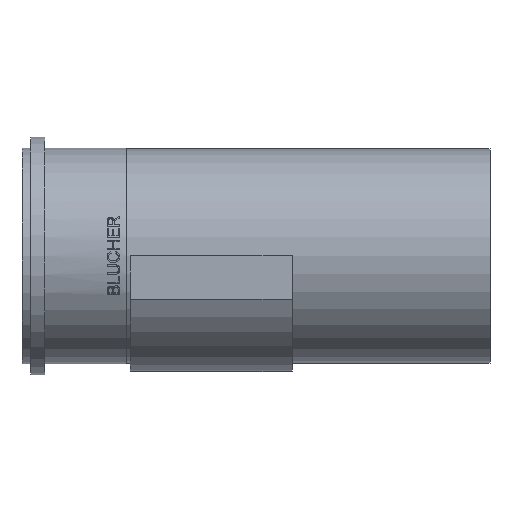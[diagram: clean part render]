
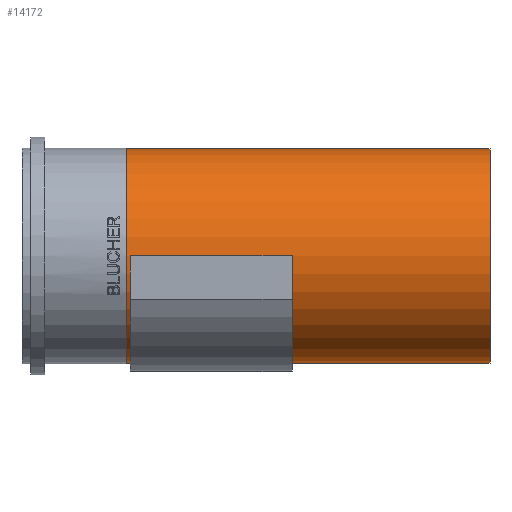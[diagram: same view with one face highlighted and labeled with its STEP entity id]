
A CAD part, top view. The second image highlights one B-rep face of the part: STEP entity #14172.
In plain terms, the highlighted cylindrical face has radius 79.883 mm (diameter 159.766 mm), a full revolution.
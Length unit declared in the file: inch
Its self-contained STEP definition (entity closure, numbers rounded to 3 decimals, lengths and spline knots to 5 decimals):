
#13900=CARTESIAN_POINT('',(-2.375,0.0,-3.145));
#13901=VERTEX_POINT('',#13900);
#13917=CARTESIAN_POINT('',(-2.375,0.0,3.145));
#13918=VERTEX_POINT('',#13917);
#13925=CARTESIAN_POINT('',(-2.375,0.0,0.0));
#13926=DIRECTION('',(-1.0,0.0,0.0));
#13927=DIRECTION('',(0.0,1.0,0.0));
#13928=AXIS2_PLACEMENT_3D('',#13925,#13926,#13927);
#13929=CIRCLE('',#13928,3.145);
#13930=EDGE_CURVE('',#13901,#13918,#13929,.T.);
#13942=CARTESIAN_POINT('',(2.375,0.0,3.145));
#13943=VERTEX_POINT('',#13942);
#13950=CARTESIAN_POINT('',(-2.375,0.0,3.145));
#13951=DIRECTION('',(1.0,0.0,0.0));
#13952=VECTOR('',#13951,4.75);
#13953=LINE('',#13950,#13952);
#13954=EDGE_CURVE('',#13918,#13943,#13953,.T.);
#13971=CARTESIAN_POINT('',(2.375,0.0,-3.145));
#13972=VERTEX_POINT('',#13971);
#13988=CARTESIAN_POINT('',(-2.375,0.0,-3.145));
#13989=DIRECTION('',(1.0,0.0,0.0));
#13990=VECTOR('',#13989,4.75);
#13991=LINE('',#13988,#13990);
#13992=EDGE_CURVE('',#13901,#13972,#13991,.T.);
#14023=CARTESIAN_POINT('',(2.375,0.0,0.0));
#14024=DIRECTION('',(1.0,0.0,0.0));
#14025=DIRECTION('',(0.0,1.0,0.0));
#14026=AXIS2_PLACEMENT_3D('',#14023,#14024,#14025);
#14027=CIRCLE('',#14026,3.145);
#14028=EDGE_CURVE('',#13943,#13972,#14027,.T.);
#14135=CARTESIAN_POINT('',(-2.5,3.145,0.0));
#14136=VERTEX_POINT('',#14135);
#14137=CARTESIAN_POINT('',(-2.5,0.0,0.0));
#14138=DIRECTION('',(1.0,0.0,0.0));
#14139=DIRECTION('',(0.0,1.0,0.0));
#14140=AXIS2_PLACEMENT_3D('',#14137,#14138,#14139);
#14141=CIRCLE('',#14140,3.145);
#14142=EDGE_CURVE('',#14136,#14136,#14141,.T.);
#14147=CARTESIAN_POINT('',(2.84375,0.0,0.0));
#14148=DIRECTION('',(1.0,0.0,0.0));
#14149=DIRECTION('',(0.0,1.0,0.0));
#14150=AXIS2_PLACEMENT_3D('',#14147,#14148,#14149);
#14151=CYLINDRICAL_SURFACE('',#14150,3.145);
#14152=CARTESIAN_POINT('',(8.1875,3.145,0.0));
#14153=VERTEX_POINT('',#14152);
#14154=CARTESIAN_POINT('',(8.1875,0.0,0.0));
#14155=DIRECTION('',(1.0,0.0,0.0));
#14156=DIRECTION('',(0.0,1.0,0.0));
#14157=AXIS2_PLACEMENT_3D('',#14154,#14155,#14156);
#14158=CIRCLE('',#14157,3.145);
#14159=EDGE_CURVE('',#14153,#14153,#14158,.T.);
#14160=ORIENTED_EDGE('',*,*,#14159,.F.);
#14161=EDGE_LOOP('',(#14160));
#14162=FACE_OUTER_BOUND('',#14161,.T.);
#14163=ORIENTED_EDGE('',*,*,#13930,.T.);
#14164=ORIENTED_EDGE('',*,*,#13954,.T.);
#14165=ORIENTED_EDGE('',*,*,#14028,.T.);
#14166=ORIENTED_EDGE('',*,*,#13992,.F.);
#14167=EDGE_LOOP('',(#14163,#14164,#14165,#14166));
#14168=FACE_BOUND('',#14167,.T.);
#14169=ORIENTED_EDGE('',*,*,#14142,.T.);
#14170=EDGE_LOOP('',(#14169));
#14171=FACE_BOUND('',#14170,.T.);
#14172=ADVANCED_FACE('',(#14162,#14168,#14171),#14151,.T.);
